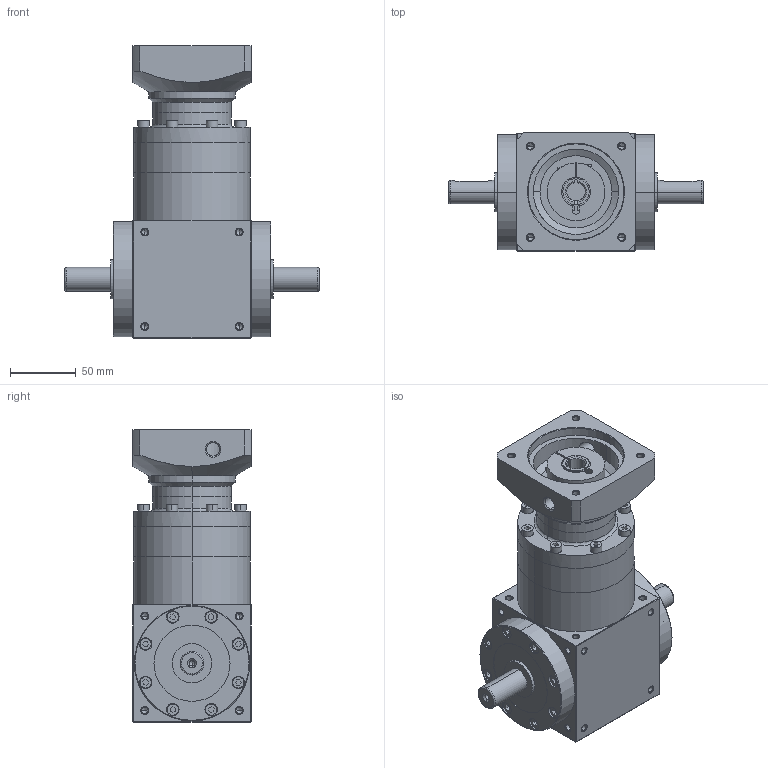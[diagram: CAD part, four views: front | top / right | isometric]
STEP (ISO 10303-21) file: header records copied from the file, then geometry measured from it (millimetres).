
FILE_DESCRIPTION (( 'STEP AP203' ), '1' );
FILE_NAME ('AT090-FL-L3-14-73-98.44M6.STEP', '2025-12-10T06:02:58', ( 'Windows User' ), ( 'P R C' ), 'SwSTEP 2.0', 'SolidWorks 2016', '' );
FILE_SCHEMA (( 'CONFIG_CONTROL_DESIGN' ));
Length unit declared in the file: millimetre
Products named in the file (8): AT90单级齿圈; AT90双级齿圈; 输入胀套-22; AT90输入法兰-H-73-M6-F69.6; 输入轴套-19-14; AT090-FL-L3-14-73-98.44M6; AT90-转角箱体-双轴-输出; AT90蛌倰怀堤楊擘
Assembly tree (7 placements, depth 2):
  AT090-FL-L3-14-73-98.44M6
    AT90-转角箱体-双轴-输出
    AT90蛌倰怀堤楊擘
    AT90单级齿圈
    AT90双级齿圈
    输入胀套-22
    AT90输入法兰-H-73-M6-F69.6
    输入轴套-19-14
Bounding box: 194 x 90 x 223 mm (x, y, z)
Volume: 1237346.3 mm3; surface area: 213329.4 mm2
Topology: 7 solids, 19 shells, 1561 faces, 3957 edges, 2494 vertices
Faces by surface type: plane 804, cylinder 326, cone 241, bspline 190
Entity records: 55351 total; most frequent: CARTESIAN_POINT 18654, ORIENTED_EDGE 7718, DIRECTION 6771, EDGE_CURVE 3859, LINE 2551, VECTOR 2551, VERTEX_POINT 2493, AXIS2_PLACEMENT_3D 2110
